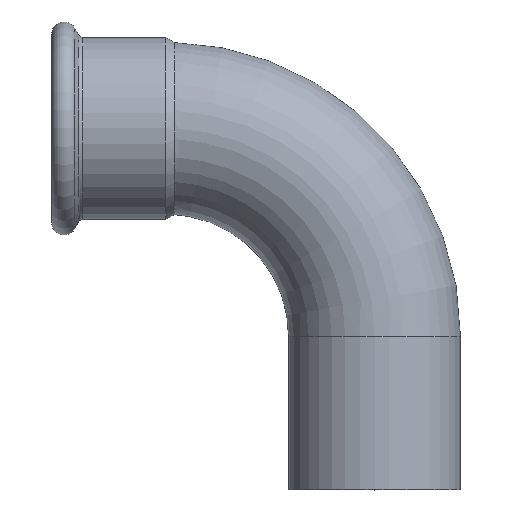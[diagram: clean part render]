
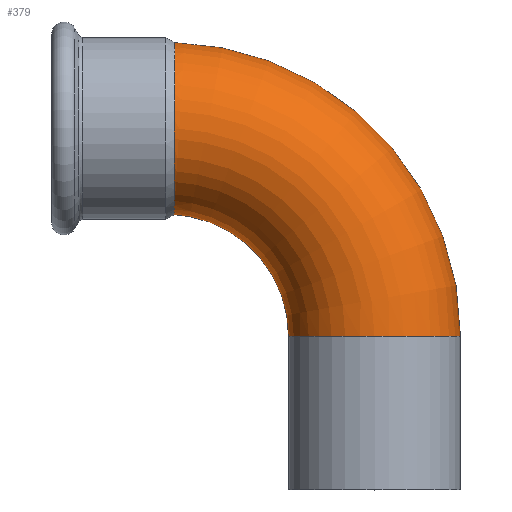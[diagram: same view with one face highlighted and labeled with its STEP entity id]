
A CAD part, top view. The second image highlights one B-rep face of the part: STEP entity #379.
In plain terms, the highlighted toroidal (fillet/blend) face has major radius 92 mm and minor radius 38.05 mm.
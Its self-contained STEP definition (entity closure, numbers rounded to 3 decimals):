
#316=CARTESIAN_POINT('',(-12.5,-92.,0.0));
#317=DIRECTION('',(0.0,0.0,1.0));
#318=DIRECTION('',(1.0,0.0,0.0));
#319=AXIS2_PLACEMENT_3D('',#316,#317,#318);
#320=TOROIDAL_SURFACE('',#319,92.,38.05);
#321=CARTESIAN_POINT('',(-8.985,38.002,0.0));
#322=VERTEX_POINT('',#321);
#323=CARTESIAN_POINT('',(-8.985,38.002,0.));
#324=CARTESIAN_POINT('',(-8.985,38.002,-4.909));
#325=CARTESIAN_POINT('',(-8.986,37.052,-9.772));
#326=CARTESIAN_POINT('',(-8.992,33.416,-18.72));
#327=CARTESIAN_POINT('',(-8.997,30.819,-22.747));
#328=CARTESIAN_POINT('',(-9.009,24.366,-29.545));
#329=CARTESIAN_POINT('',(-9.016,20.598,-32.29));
#330=CARTESIAN_POINT('',(-9.034,12.332,-36.263));
#331=CARTESIAN_POINT('',(-9.045,7.913,-37.482));
#332=CARTESIAN_POINT('',(-9.07,-1.15,-38.306));
#333=CARTESIAN_POINT('',(-9.084,-5.721,-37.902));
#334=CARTESIAN_POINT('',(-9.115,-14.634,-35.465));
#335=CARTESIAN_POINT('',(-9.133,-18.891,-33.404));
#336=CARTESIAN_POINT('',(-9.169,-26.719,-27.636));
#337=CARTESIAN_POINT('',(-9.188,-30.14,-23.875));
#338=CARTESIAN_POINT('',(-9.216,-34.965,-15.833));
#339=CARTESIAN_POINT('',(-9.227,-36.545,-11.754));
#340=CARTESIAN_POINT('',(-9.235,-37.759,-5.722));
#341=CARTESIAN_POINT('',(-9.237,-37.989,-3.925));
#342=CARTESIAN_POINT('',(-9.238,-38.172,-0.648));
#343=CARTESIAN_POINT('',(-9.238,-38.168,0.826));
#344=CARTESIAN_POINT('',(-9.237,-37.968,4.135));
#345=CARTESIAN_POINT('',(-9.235,-37.723,5.962));
#346=CARTESIAN_POINT('',(-9.226,-36.443,12.096));
#347=CARTESIAN_POINT('',(-9.215,-34.79,16.236));
#348=CARTESIAN_POINT('',(-9.187,-30.051,23.896));
#349=CARTESIAN_POINT('',(-9.17,-26.955,27.327));
#350=CARTESIAN_POINT('',(-9.134,-19.333,33.202));
#351=CARTESIAN_POINT('',(-9.116,-14.77,35.457));
#352=CARTESIAN_POINT('',(-9.082,-5.066,38.05));
#353=CARTESIAN_POINT('',(-9.066,-0.023,38.377));
#354=CARTESIAN_POINT('',(-9.04,9.895,37.063));
#355=CARTESIAN_POINT('',(-9.029,14.675,35.437));
#356=CARTESIAN_POINT('',(-9.011,23.346,30.421));
#357=CARTESIAN_POINT('',(-9.003,27.151,27.075));
#358=CARTESIAN_POINT('',(-8.992,33.251,19.086));
#359=CARTESIAN_POINT('',(-8.989,35.481,14.518));
#360=CARTESIAN_POINT('',(-8.985,37.584,6.499));
#361=CARTESIAN_POINT('',(-8.985,38.002,3.256));
#362=CARTESIAN_POINT('',(-8.985,38.002,0.));
#363=B_SPLINE_CURVE_WITH_KNOTS('',3,(#323,#324,#325,#326,#327,#328,#329,#330,#331,#332,#333,#334,#335,#336,#337,#338,#339,#340,#341,#342,#343,#344,#345,#346,#347,#348,#349,#350,#351,#352,#353,#354,#355,#356,#357,#358,#359,#360,#361,#362),.UNSPECIFIED.,.T.,.U.,(4,2,2,2,2,2,2,2,2,2,2,2,2,2,2,2,2,2,2,4),(0.0,1.473,2.898,4.285,5.649,7.015,8.421,9.932,11.235,11.777,12.219,12.772,14.099,15.474,16.986,18.488,19.988,21.493,23.003,23.98),.UNSPECIFIED.);
#364=EDGE_CURVE('',#322,#322,#363,.T.);
#365=ORIENTED_EDGE('',*,*,#364,.F.);
#366=EDGE_LOOP('',(#365));
#367=FACE_OUTER_BOUND('',#366,.T.);
#368=CARTESIAN_POINT('',(41.45,-92.,0.));
#369=VERTEX_POINT('',#368);
#370=CARTESIAN_POINT('',(79.5,-92.,0.0));
#371=DIRECTION('',(0.0,-1.0,0.0));
#372=DIRECTION('',(1.0,0.0,0.0));
#373=AXIS2_PLACEMENT_3D('',#370,#371,#372);
#374=CIRCLE('',#373,38.05);
#375=EDGE_CURVE('',#369,#369,#374,.T.);
#376=ORIENTED_EDGE('',*,*,#375,.F.);
#377=EDGE_LOOP('',(#376));
#378=FACE_BOUND('',#377,.T.);
#379=ADVANCED_FACE('',(#367,#378),#320,.T.);
